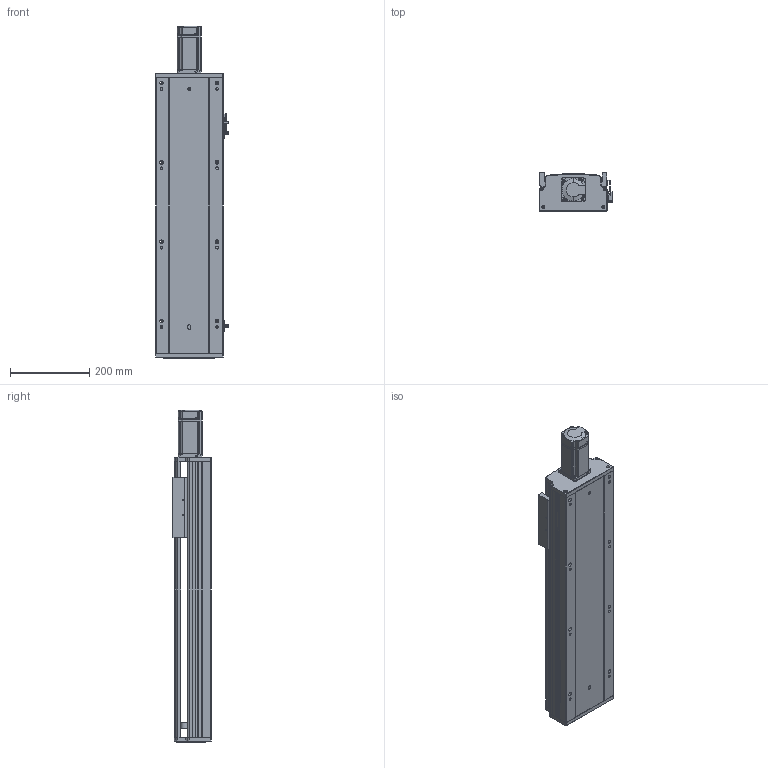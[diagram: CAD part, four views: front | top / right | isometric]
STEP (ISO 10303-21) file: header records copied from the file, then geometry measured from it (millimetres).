
FILE_DESCRIPTION (( 'STEP AP203' ), '1' );
FILE_NAME ('RY170Q-L2020-400-MK.SLDASM_0450.step', '2021-05-31T02:02:22', ( '盈信电脑' ), ( '东莞市道滘镇水果街19号' ), 'SwSTEP 2.0', 'SolidWorks 2016', '' );
FILE_SCHEMA (( 'CONFIG_CONTROL_DESIGN' ));
Length unit declared in the file: millimetre
Products named in the file (12): 滅袉蝶18-15; 滅袉蝶18-10; 15; RY170Q-400倰第裔啣-MK_0450; RY170Q臏賑輸20佪裝蹟譫(FK15); RY170綴裔啣; RY170Q-L2020-400-MK.SLDASM_0450; RY170Q-400倰第菁釱-MK_0450; RY170外置感应片(200共用）; 侂狟400W侜督萇儂; RY170ヶ醱裔啣; 覜茼ん672
Assembly tree (14 placements, depth 3):
  RY170Q-L2020-400-MK.SLDASM_0450
    RY170Q-400倰第菁釱-MK_0450
    RY170Q-400倰第裔啣-MK_0450
    RY170Q臏賑輸20佪裝蹟譫(FK15)
    侂狟400W侜督萇儂
      15
    RY170綴裔啣
    覜茼ん672  x3
    RY170外置感应片(200共用）
    RY170ヶ醱裔啣
    滅袉蝶18-15  x2
    滅袉蝶18-10
Bounding box: 183.7 x 97 x 836.5 mm (x, y, z)
Volume: 3920807.4 mm3; surface area: 1231058.1 mm2
Topology: 13 solids, 13 shells, 2100 faces, 5927 edges, 3839 vertices
Faces by surface type: plane 1185, cylinder 733, cone 153, bspline 29
Entity records: 65190 total; most frequent: CARTESIAN_POINT 13995, ORIENTED_EDGE 10650, DIRECTION 10156, EDGE_CURVE 5325, LINE 3520, VECTOR 3520, VERTEX_POINT 3507, AXIS2_PLACEMENT_3D 3318
